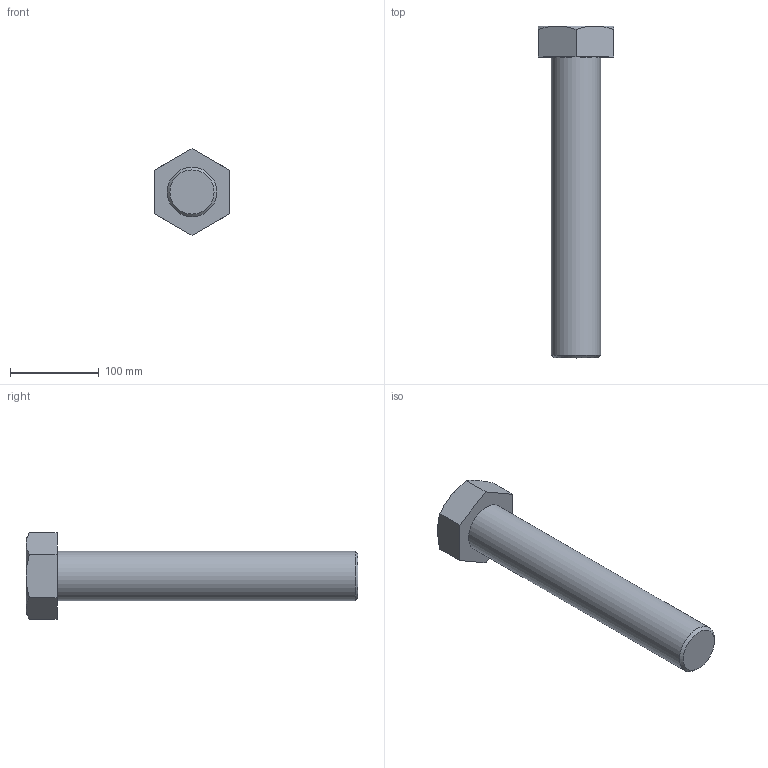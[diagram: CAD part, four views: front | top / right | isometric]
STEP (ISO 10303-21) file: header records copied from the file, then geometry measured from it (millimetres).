
FILE_DESCRIPTION(/* description */ (''),/* implementation_level */ '2;1');
FILE_NAME(/* name */ 'C:\Users\unitec\Documents\Inventor\各種小物\JIS\JIS B 1180 六角ボルト 等級C\hbc56\M56x340.stp',/* time_stamp */ '2015-02-13T15:00:21+09:00',/* author */ ('unitec'),/* organization */ (''),/* preprocessor_version */ 'ST-DEVELOPER v15.2',/* originating_system */ 'Autodesk Inventor 2014',/* authorisation */ '');
FILE_SCHEMA (('AUTOMOTIVE_DESIGN { 1 0 10303 214 3 1 1 }'));
Length unit declared in the file: millimetre
Products named in the file (1): M56x340
Bounding box: 85 x 375 x 98.15 mm (x, y, z)
Volume: 1054953.7 mm3; surface area: 82013.8 mm2
Topology: 1 solids, 1 shells, 17 faces, 35 edges, 21 vertices
Faces by surface type: plane 9, cone 7, cylinder 1
Full cylindrical faces by diameter (mm): 56 x1
Entity records: 441 total; most frequent: CARTESIAN_POINT 96, ORIENTED_EDGE 66, DIRECTION 66, EDGE_CURVE 33, AXIS2_PLACEMENT_3D 27, VERTEX_POINT 21, EDGE_LOOP 20, ADVANCED_FACE 17
